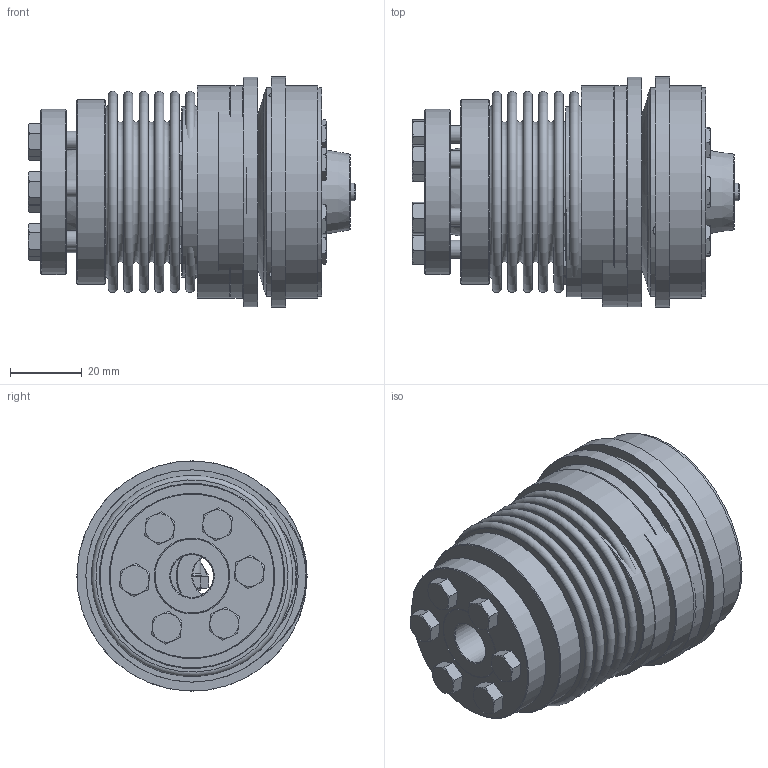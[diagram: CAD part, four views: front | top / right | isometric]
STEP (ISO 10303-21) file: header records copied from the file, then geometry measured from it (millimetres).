
FILE_DESCRIPTION( ( 'Unknown' ), '1' );
FILE_NAME( 'C:/Dokumente und Einstellungen/SKarpstein/Desktop/Korrigierte 3D Modelle/KBK-B-AI/KBK-BAI-30-84.stp', 'Unknown', ( 'Unknown' ), ( 'Unknown' ), 'XStep 1.0', 'Unknown', ' ' );
FILE_SCHEMA( ( 'automotive_design' ) );
Length unit declared in the file: millimetre
Products named in the file (12): Assem1; Assem2; Hex Screw GradeC_DIN_ISO 4018 - M5 x 16-NN; BA30_Standard; DR30_Standard; Stellring 30; Druckring 30; KBK L-I-30 Grundkörper; Konusbuchse KBK L-I-30; din_en_24017_m5x16; Flansch BK30; BL30_Standard_0
Bounding box: 91.05 x 64 x 64 mm (x, y, z)
Volume: 231134.5 mm3; surface area: 181427.4 mm2
Topology: 38 solids, 38 shells, 759 faces, 1577 edges, 999 vertices
Faces by surface type: plane 337, cone 212, cylinder 153, torus 57
Full cylindrical faces by diameter (mm): 3.242 x6, 4.134 x18, 4.2 x18, 5 x20, 5.5 x30, 6.88 x7, 12 x7, 23.9 x2, 24.4 x2, 24.526 x3, 25 x4, 34 x2, 37 x2, 38 x4, 39.5 x2, 40 x2, 46 x3, 46.5 x4, 47.3 x4, 51.5 x3, 52 x2, 58 x2, 59 x4, 64 x2
Entity records: 5789 total; most frequent: CARTESIAN_POINT 1238, DIRECTION 974, ORIENTED_EDGE 622, AXIS2_PLACEMENT_3D 463, EDGE_LOOP 428, EDGE_CURVE 311, FACE_OUTER_BOUND 300, VERTEX_POINT 263
